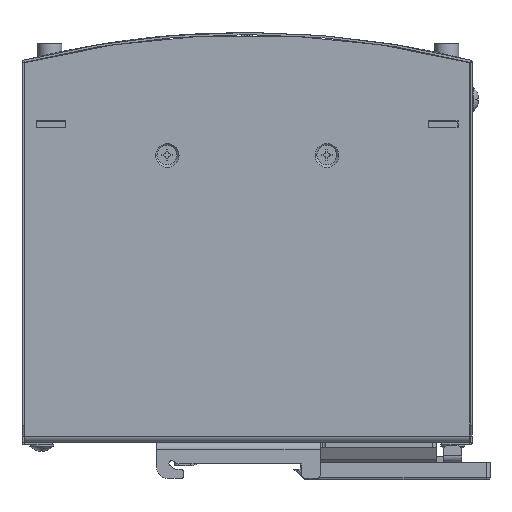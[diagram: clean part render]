
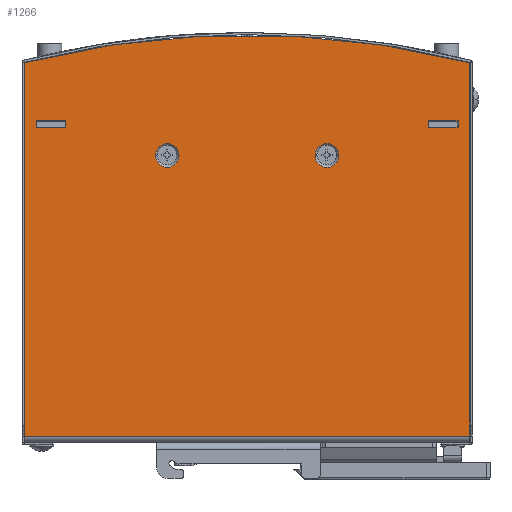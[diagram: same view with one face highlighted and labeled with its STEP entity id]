
A CAD part, left-side view. The second image highlights one B-rep face of the part: STEP entity #1266.
In plain terms, the highlighted planar face has unit normal (-1, 0, 0).
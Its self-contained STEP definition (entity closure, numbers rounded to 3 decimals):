
#307=DIRECTION('',(0.,-1.,0.));
#308=VECTOR('',#307,122.6);
#309=CARTESIAN_POINT('',(-22.5,61.3,1.7));
#310=LINE('',#309,#308);
#315=DIRECTION('',(0.,0.,-1.));
#316=VECTOR('',#315,102.828);
#317=CARTESIAN_POINT('',(-22.5,-61.3,104.528));
#318=LINE('',#317,#316);
#319=DIRECTION('',(0.,0.,1.));
#320=VECTOR('',#319,102.828);
#321=CARTESIAN_POINT('',(-22.5,61.3,1.7));
#322=LINE('',#321,#320);
#323=CARTESIAN_POINT('',(-22.5,0.,-137.84));
#324=DIRECTION('',(1.,0.,0.));
#325=DIRECTION('',(0.,0.245,0.969));
#326=AXIS2_PLACEMENT_3D('',#323,#324,#325);
#328=DIRECTION('',(0.,1.,0.));
#329=VECTOR('',#328,8.2);
#330=CARTESIAN_POINT('',(-22.5,49.9,88.494));
#331=LINE('',#330,#329);
#332=DIRECTION('',(0.,0.,-1.));
#333=VECTOR('',#332,1.8);
#334=CARTESIAN_POINT('',(-22.5,58.1,88.494));
#335=LINE('',#334,#333);
#336=DIRECTION('',(0.,-1.,0.));
#337=VECTOR('',#336,8.2);
#338=CARTESIAN_POINT('',(-22.5,58.1,86.694));
#339=LINE('',#338,#337);
#340=DIRECTION('',(0.,0.,1.));
#341=VECTOR('',#340,1.8);
#342=CARTESIAN_POINT('',(-22.5,49.9,86.694));
#343=LINE('',#342,#341);
#344=DIRECTION('',(0.,0.,1.));
#345=VECTOR('',#344,1.8);
#346=CARTESIAN_POINT('',(-22.5,-58.1,86.694));
#347=LINE('',#346,#345);
#348=DIRECTION('',(0.,1.,0.));
#349=VECTOR('',#348,8.2);
#350=CARTESIAN_POINT('',(-22.5,-58.1,88.494));
#351=LINE('',#350,#349);
#352=DIRECTION('',(0.,0.,-1.));
#353=VECTOR('',#352,1.8);
#354=CARTESIAN_POINT('',(-22.5,-49.9,88.494));
#355=LINE('',#354,#353);
#356=DIRECTION('',(0.,-1.,0.));
#357=VECTOR('',#356,8.2);
#358=CARTESIAN_POINT('',(-22.5,-49.9,86.694));
#359=LINE('',#358,#357);
#360=CARTESIAN_POINT('',(-22.5,-22.,78.988));
#361=DIRECTION('',(-1.,0.,0.));
#362=DIRECTION('',(0.,-1.,0.));
#363=AXIS2_PLACEMENT_3D('',#360,#361,#362);
#365=CARTESIAN_POINT('',(-22.5,-22.,78.988));
#366=DIRECTION('',(-1.,0.,0.));
#367=DIRECTION('',(0.,0.,1.));
#368=AXIS2_PLACEMENT_3D('',#365,#366,#367);
#370=CARTESIAN_POINT('',(-22.5,-22.,78.988));
#371=DIRECTION('',(-1.,0.,0.));
#372=DIRECTION('',(0.,1.,0.));
#373=AXIS2_PLACEMENT_3D('',#370,#371,#372);
#375=CARTESIAN_POINT('',(-22.5,-22.,78.988));
#376=DIRECTION('',(-1.,0.,0.));
#377=DIRECTION('',(0.,0.,-1.));
#378=AXIS2_PLACEMENT_3D('',#375,#376,#377);
#380=CARTESIAN_POINT('',(-22.5,22.,78.988));
#381=DIRECTION('',(-1.,0.,0.));
#382=DIRECTION('',(0.,-1.,0.));
#383=AXIS2_PLACEMENT_3D('',#380,#381,#382);
#385=CARTESIAN_POINT('',(-22.5,22.,78.988));
#386=DIRECTION('',(-1.,0.,0.));
#387=DIRECTION('',(0.,0.,1.));
#388=AXIS2_PLACEMENT_3D('',#385,#386,#387);
#390=CARTESIAN_POINT('',(-22.5,22.,78.988));
#391=DIRECTION('',(-1.,0.,0.));
#392=DIRECTION('',(0.,1.,0.));
#393=AXIS2_PLACEMENT_3D('',#390,#391,#392);
#395=CARTESIAN_POINT('',(-22.5,22.,78.988));
#396=DIRECTION('',(-1.,0.,0.));
#397=DIRECTION('',(0.,0.,-1.));
#398=AXIS2_PLACEMENT_3D('',#395,#396,#397);
#909=CARTESIAN_POINT('',(-22.5,61.3,1.7));
#910=CARTESIAN_POINT('',(-22.5,-61.3,1.7));
#911=VERTEX_POINT('',#909);
#912=VERTEX_POINT('',#910);
#913=CARTESIAN_POINT('',(-22.5,-61.3,104.528));
#914=VERTEX_POINT('',#913);
#915=CARTESIAN_POINT('',(-22.5,61.3,104.528));
#916=VERTEX_POINT('',#915);
#917=CARTESIAN_POINT('',(-22.5,49.9,88.494));
#918=CARTESIAN_POINT('',(-22.5,58.1,88.494));
#919=VERTEX_POINT('',#917);
#920=VERTEX_POINT('',#918);
#921=CARTESIAN_POINT('',(-22.5,58.1,86.694));
#922=VERTEX_POINT('',#921);
#923=CARTESIAN_POINT('',(-22.5,49.9,86.694));
#924=VERTEX_POINT('',#923);
#925=CARTESIAN_POINT('',(-22.5,-58.1,86.694));
#926=CARTESIAN_POINT('',(-22.5,-58.1,88.494));
#927=VERTEX_POINT('',#925);
#928=VERTEX_POINT('',#926);
#929=CARTESIAN_POINT('',(-22.5,-49.9,88.494));
#930=VERTEX_POINT('',#929);
#931=CARTESIAN_POINT('',(-22.5,-49.9,86.694));
#932=VERTEX_POINT('',#931);
#933=CARTESIAN_POINT('',(-22.5,-22.,82.238));
#934=CARTESIAN_POINT('',(-22.5,-18.75,78.988));
#935=VERTEX_POINT('',#933);
#936=VERTEX_POINT('',#934);
#937=CARTESIAN_POINT('',(-22.5,-25.25,78.988));
#938=VERTEX_POINT('',#937);
#939=CARTESIAN_POINT('',(-22.5,-22.,75.738));
#940=VERTEX_POINT('',#939);
#941=CARTESIAN_POINT('',(-22.5,22.,82.238));
#942=CARTESIAN_POINT('',(-22.5,25.25,78.988));
#943=VERTEX_POINT('',#941);
#944=VERTEX_POINT('',#942);
#945=CARTESIAN_POINT('',(-22.5,18.75,78.988));
#946=VERTEX_POINT('',#945);
#947=CARTESIAN_POINT('',(-22.5,22.,75.738));
#948=VERTEX_POINT('',#947);
#1212=CARTESIAN_POINT('',(-22.5,32.17,0.));
#1213=DIRECTION('',(-1.,0.,0.));
#1214=DIRECTION('',(0.,-1.,0.));
#1215=AXIS2_PLACEMENT_3D('',#1212,#1213,#1214);
#1216=PLANE('',#1215);
#1218=ORIENTED_EDGE('',*,*,#1217,.T.);
#1219=ORIENTED_EDGE('',*,*,#1195,.F.);
#1221=ORIENTED_EDGE('',*,*,#1220,.T.);
#1223=ORIENTED_EDGE('',*,*,#1222,.T.);
#1224=EDGE_LOOP('',(#1218,#1219,#1221,#1223));
#1225=FACE_OUTER_BOUND('',#1224,.F.);
#1227=ORIENTED_EDGE('',*,*,#1226,.T.);
#1229=ORIENTED_EDGE('',*,*,#1228,.T.);
#1231=ORIENTED_EDGE('',*,*,#1230,.T.);
#1233=ORIENTED_EDGE('',*,*,#1232,.T.);
#1234=EDGE_LOOP('',(#1227,#1229,#1231,#1233));
#1235=FACE_BOUND('',#1234,.F.);
#1237=ORIENTED_EDGE('',*,*,#1236,.T.);
#1239=ORIENTED_EDGE('',*,*,#1238,.T.);
#1241=ORIENTED_EDGE('',*,*,#1240,.T.);
#1243=ORIENTED_EDGE('',*,*,#1242,.T.);
#1244=EDGE_LOOP('',(#1237,#1239,#1241,#1243));
#1245=FACE_BOUND('',#1244,.F.);
#1247=ORIENTED_EDGE('',*,*,#1246,.T.);
#1249=ORIENTED_EDGE('',*,*,#1248,.T.);
#1251=ORIENTED_EDGE('',*,*,#1250,.T.);
#1253=ORIENTED_EDGE('',*,*,#1252,.T.);
#1254=EDGE_LOOP('',(#1247,#1249,#1251,#1253));
#1255=FACE_BOUND('',#1254,.F.);
#1257=ORIENTED_EDGE('',*,*,#1256,.T.);
#1259=ORIENTED_EDGE('',*,*,#1258,.T.);
#1261=ORIENTED_EDGE('',*,*,#1260,.T.);
#1263=ORIENTED_EDGE('',*,*,#1262,.T.);
#1264=EDGE_LOOP('',(#1257,#1259,#1261,#1263));
#1265=FACE_BOUND('',#1264,.F.);
#1266=ADVANCED_FACE('',(#1225,#1235,#1245,#1255,#1265),#1216,.T.);
#327=CIRCLE('',#326,250.);
#364=CIRCLE('',#363,3.25);
#369=CIRCLE('',#368,3.25);
#374=CIRCLE('',#373,3.25);
#379=CIRCLE('',#378,3.25);
#384=CIRCLE('',#383,3.25);
#389=CIRCLE('',#388,3.25);
#394=CIRCLE('',#393,3.25);
#399=CIRCLE('',#398,3.25);
#1195=EDGE_CURVE('',#911,#912,#310,.T.);
#1217=EDGE_CURVE('',#914,#912,#318,.T.);
#1220=EDGE_CURVE('',#911,#916,#322,.T.);
#1222=EDGE_CURVE('',#916,#914,#327,.T.);
#1226=EDGE_CURVE('',#919,#920,#331,.T.);
#1228=EDGE_CURVE('',#920,#922,#335,.T.);
#1230=EDGE_CURVE('',#922,#924,#339,.T.);
#1232=EDGE_CURVE('',#924,#919,#343,.T.);
#1236=EDGE_CURVE('',#927,#928,#347,.T.);
#1238=EDGE_CURVE('',#928,#930,#351,.T.);
#1240=EDGE_CURVE('',#930,#932,#355,.T.);
#1242=EDGE_CURVE('',#932,#927,#359,.T.);
#1246=EDGE_CURVE('',#938,#935,#364,.T.);
#1248=EDGE_CURVE('',#935,#936,#369,.T.);
#1250=EDGE_CURVE('',#936,#940,#374,.T.);
#1252=EDGE_CURVE('',#940,#938,#379,.T.);
#1256=EDGE_CURVE('',#946,#943,#384,.T.);
#1258=EDGE_CURVE('',#943,#944,#389,.T.);
#1260=EDGE_CURVE('',#944,#948,#394,.T.);
#1262=EDGE_CURVE('',#948,#946,#399,.T.);
